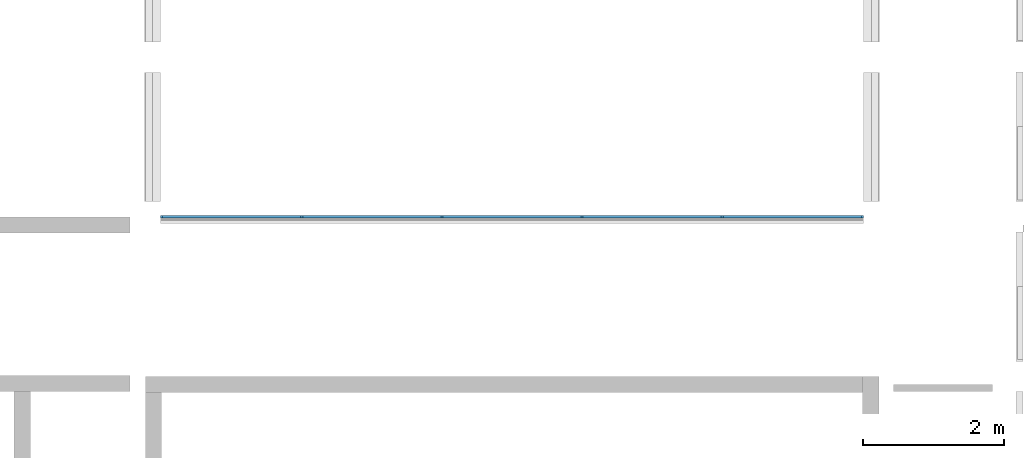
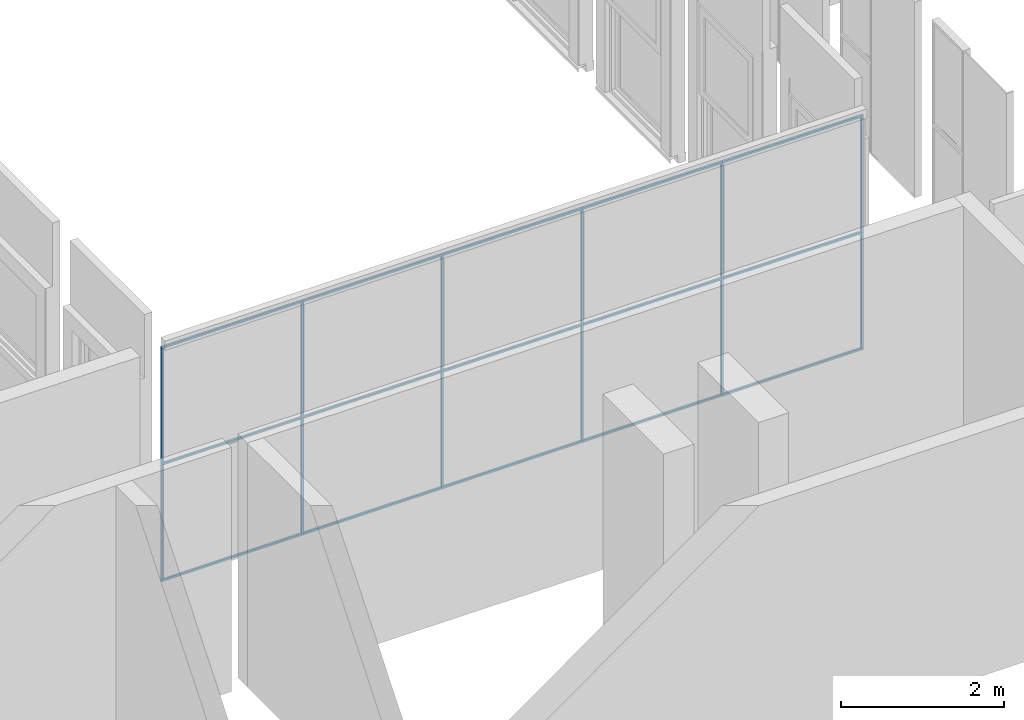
# One storey, part 2 of 13: 27 members, 1 element without a shape of its own.
"""IFC2X3 building model written with IfcOpenShell, lengths in millimetres."""

from ifc_helpers import new_model, entity, si_unit, converted_unit, derived_unit, direction, frame, origin, origin_2d_with_axis, place, context, subcontext, project, spatial, rectangle, extrude, source, transform, mapped, material, type_object, type_shapes, element, aggregate, save


model = new_model("IFC2X3")

# Units and contexts
model_context = context("Model", 3, precision=0.01, world=origin(), true_north=direction((6.12303176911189e-17, 1.0)))
body_context = subcontext(model_context, "Body", "Model", "MODEL_VIEW")
ifc_project = project(units=[si_unit("LENGTHUNIT", "METRE", prefix="MILLI"), si_unit("AREAUNIT", "SQUARE_METRE"), si_unit("VOLUMEUNIT", "CUBIC_METRE"), converted_unit("PLANEANGLEUNIT", "DEGREE", entity("IfcRatioMeasure", 0.0174532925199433), si_unit("PLANEANGLEUNIT", "RADIAN"), dimensions=[0, 0, 0, 0, 0, 0, 0]), si_unit("MASSUNIT", "GRAM", prefix="KILO"), derived_unit("MASSDENSITYUNIT", [(si_unit("MASSUNIT", "GRAM", prefix="KILO"), 1), (si_unit("LENGTHUNIT", "METRE"), -3)]), derived_unit("MOMENTOFINERTIAUNIT", [(si_unit("LENGTHUNIT", "METRE"), 4)]), si_unit("TIMEUNIT", "SECOND"), si_unit("FREQUENCYUNIT", "HERTZ"), si_unit("THERMODYNAMICTEMPERATUREUNIT", "DEGREE_CELSIUS"), derived_unit("THERMALTRANSMITTANCEUNIT", [(si_unit("MASSUNIT", "GRAM", prefix="KILO"), 1), (si_unit("THERMODYNAMICTEMPERATUREUNIT", "KELVIN"), -1), (si_unit("TIMEUNIT", "SECOND"), -3)]), derived_unit("VOLUMETRICFLOWRATEUNIT", [(si_unit("LENGTHUNIT", "METRE"), 3), (si_unit("TIMEUNIT", "SECOND"), -1)]), si_unit("ELECTRICCURRENTUNIT", "AMPERE"), si_unit("ELECTRICVOLTAGEUNIT", "VOLT"), si_unit("POWERUNIT", "WATT"), si_unit("FORCEUNIT", "NEWTON", prefix="KILO"), si_unit("ILLUMINANCEUNIT", "LUX"), si_unit("LUMINOUSFLUXUNIT", "LUMEN"), si_unit("LUMINOUSINTENSITYUNIT", "CANDELA"), derived_unit("USERDEFINED", [(si_unit("MASSUNIT", "GRAM", prefix="KILO"), -1), (si_unit("LENGTHUNIT", "METRE"), -2), (si_unit("TIMEUNIT", "SECOND"), 3), (si_unit("LUMINOUSFLUXUNIT", "LUMEN"), 1)]), derived_unit("LINEARVELOCITYUNIT", [(si_unit("LENGTHUNIT", "METRE"), 1), (si_unit("TIMEUNIT", "SECOND"), -1)]), si_unit("PRESSUREUNIT", "PASCAL"), derived_unit("USERDEFINED", [(si_unit("LENGTHUNIT", "METRE"), -2), (si_unit("MASSUNIT", "GRAM", prefix="KILO"), 1), (si_unit("TIMEUNIT", "SECOND"), -2)]), derived_unit("LINEARFORCEUNIT", [(si_unit("MASSUNIT", "GRAM", prefix="KILO"), 1), (si_unit("LENGTHUNIT", "METRE"), 1), (si_unit("TIMEUNIT", "SECOND"), -2), (si_unit("LENGTHUNIT", "METRE"), -1)]), derived_unit("PLANARFORCEUNIT", [(si_unit("MASSUNIT", "GRAM", prefix="KILO"), 1), (si_unit("LENGTHUNIT", "METRE"), 1), (si_unit("TIMEUNIT", "SECOND"), -2), (si_unit("LENGTHUNIT", "METRE"), -2)])], contexts=[model_context])

# Site, building, storey
site_placement = place(None, frame((10627.5135316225, 21939.0796949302, 0.0)))
site = spatial("IfcSite", under=ifc_project, at=site_placement, Name="Default", CompositionType="ELEMENT")
building_placement = place(site_placement, origin())
building = spatial("IfcBuilding", under=site, at=building_placement, CompositionType="ELEMENT")
storey_placement = place(building_placement, frame((0.0, 0.0, 7320.0)))
storey = spatial("IfcBuildingStorey", under=building, at=storey_placement, Name="R+2", CompositionType="ELEMENT", Elevation=7320.0)

# Curtain wall, members
curtain_wall_type = type_object("IfcCurtainWallType", Name="Curtain Wall:Curtain_Wall-Exterior_Glazing", PredefinedType="NOTDEFINED")
curtain_wall_placement = place(storey_placement, frame((0.0, 0.0, -7320.0)))
curtain_wall = element("IfcCurtainWall", 1, at=curtain_wall_placement, inside=storey, type_object=curtain_wall_type, Name="Curtain Wall:Curtain_Wall-Exterior_Glazing", ObjectType="Curtain Wall:Curtain_Wall-Exterior_Glazing")
ifc_material = material(Name="Aluminium")
member_type_1 = type_object("IfcMemberType", Name="Rectangular Mullion:30mm_Square", PredefinedType="MULLION", material=ifc_material)
shared_shape_1 = source(origin(), body_context, "Body", "SweptSolid", [
    extrude(rectangle(XDim=30.0, YDim=30.0, at=origin_2d_with_axis()), frame((-15.0, 0.0, -1999.0), z_axis=(0.0, 0.0, 1.0), x_axis=(0.0, -1.0, 0.0)), (0.0, 0.0, 1.0), 1999.00000018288),
])
type_shapes(member_type_1, [shared_shape_1])
member_1_placement = place(storey_placement, frame((51357.4864683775, -15159.0796949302, 3520.0), z_axis=(1.0, 0.0, 0.0), x_axis=(0.0, 0.0, 1.0)))
member_1 = element("IfcMember", 2, at=member_1_placement, type_object=member_type_1, material=ifc_material, Name="Rectangular Mullion:30mm_Square", ObjectType="Rectangular Mullion:30mm_Square", context=body_context, shape_type="MappedRepresentation", body=[
    mapped(shared_shape_1, transform((0.0, 0.0, 0.0), scale=1.0)),
])
member_type_2 = type_object("IfcMemberType", Name="Rectangular Mullion:30mm_Square", PredefinedType="MULLION", material=ifc_material)
shared_shape_2 = source(origin(), body_context, "Body", "SweptSolid", [
    extrude(rectangle(XDim=30.0, YDim=30.0, at=origin_2d_with_axis()), frame((-15.0, 0.0, -1999.0), z_axis=(0.0, 0.0, 1.0), x_axis=(0.0, -1.0, 0.0)), (0.0, 0.0, 1.0), 1999.00000018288),
])
type_shapes(member_type_2, [shared_shape_2])
member_2_placement = place(storey_placement, frame((43406.4864685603, -15159.0796949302, 3520.0), z_axis=(1.0, 0.0, 0.0), x_axis=(0.0, 0.0, 1.0)))
member_2 = element("IfcMember", 3, at=member_2_placement, type_object=member_type_2, material=ifc_material, Name="Rectangular Mullion:30mm_Square", ObjectType="Rectangular Mullion:30mm_Square", context=body_context, shape_type="MappedRepresentation", body=[
    mapped(shared_shape_2, transform((0.0, 0.0, 0.0), scale=1.0)),
])
member_type_3 = type_object("IfcMemberType", Name="Rectangular Mullion:30mm_Square", PredefinedType="MULLION", material=ifc_material)
shared_shape_3 = source(origin(), body_context, "Body", "SweptSolid", [
    extrude(rectangle(XDim=30.0, YDim=30.0, at=origin_2d_with_axis()), frame((-15.0, 0.0, -1984.0), z_axis=(0.0, 0.0, 1.0), x_axis=(0.0, -1.0, 0.0)), (0.0, 0.0, 1.0), 1983.99999987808),
])
type_shapes(member_type_3, [shared_shape_3])
member_3_placement = place(storey_placement, frame((45390.4864684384, -15159.0796949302, 3520.0), z_axis=(1.0, 0.0, 0.0), x_axis=(0.0, 0.0, 1.0)))
member_3 = element("IfcMember", 4, at=member_3_placement, type_object=member_type_3, material=ifc_material, Name="Rectangular Mullion:30mm_Square", ObjectType="Rectangular Mullion:30mm_Square", context=body_context, shape_type="MappedRepresentation", body=[
    mapped(shared_shape_3, transform((0.0, 0.0, 0.0), scale=1.0)),
])
member_4_placement = place(storey_placement, frame((47374.4864683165, -15159.0796949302, 3520.0), z_axis=(1.0, 0.0, 0.0), x_axis=(0.0, 0.0, 1.0)))
member_4 = element("IfcMember", 5, at=member_4_placement, type_object=member_type_3, material=ifc_material, Name="Rectangular Mullion:30mm_Square", ObjectType="Rectangular Mullion:30mm_Square", context=body_context, shape_type="MappedRepresentation", body=[
    mapped(shared_shape_3, transform((0.0, 0.0, 0.0), scale=1.0)),
])
member_5_placement = place(storey_placement, frame((49358.4864681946, -15159.0796949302, 3520.0), z_axis=(1.0, 0.0, 0.0), x_axis=(0.0, 0.0, 1.0)))
member_5 = element("IfcMember", 6, at=member_5_placement, type_object=member_type_3, material=ifc_material, Name="Rectangular Mullion:30mm_Square", ObjectType="Rectangular Mullion:30mm_Square", context=body_context, shape_type="MappedRepresentation", body=[
    mapped(shared_shape_3, transform((0.0, 0.0, 0.0), scale=1.0)),
])
member_type_4 = type_object("IfcMemberType", Name="Rectangular Mullion:30mm_Square", PredefinedType="MULLION", material=ifc_material)
shared_shape_4 = source(origin(), body_context, "Body", "SweptSolid", [
    extrude(rectangle(XDim=30.0, YDim=30.0, at=origin_2d_with_axis()), frame((-15.0, 0.0, -1999.0), z_axis=(0.0, 0.0, 1.0), x_axis=(0.0, -1.0, 0.0)), (0.0, 0.0, 1.0), 1999.00000018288),
])
type_shapes(member_type_4, [shared_shape_4])
member_6_placement = place(storey_placement, frame((41407.4864683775, -15159.0796949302, 0.0), z_axis=(-1.0, 0.0, 0.0), x_axis=(0.0, 0.0, -1.0)))
member_6 = element("IfcMember", 7, at=member_6_placement, type_object=member_type_4, material=ifc_material, Name="Rectangular Mullion:30mm_Square", ObjectType="Rectangular Mullion:30mm_Square", context=body_context, shape_type="MappedRepresentation", body=[
    mapped(shared_shape_4, transform((0.0, 0.0, 0.0), scale=1.0)),
])
member_type_5 = type_object("IfcMemberType", Name="Rectangular Mullion:30mm_Square", PredefinedType="MULLION", material=ifc_material)
shared_shape_5 = source(origin(), body_context, "Body", "SweptSolid", [
    extrude(rectangle(XDim=30.0, YDim=30.0, at=origin_2d_with_axis()), frame((-15.0, 0.0, -1984.0), z_axis=(0.0, 0.0, 1.0), x_axis=(0.0, -1.0, 0.0)), (0.0, 0.0, 1.0), 1983.99999987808),
])
type_shapes(member_type_5, [shared_shape_5])
member_7_placement = place(storey_placement, frame((43406.4864685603, -15159.0796949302, 0.0), z_axis=(-1.0, 0.0, 0.0), x_axis=(0.0, 0.0, -1.0)))
member_7 = element("IfcMember", 8, at=member_7_placement, type_object=member_type_5, material=ifc_material, Name="Rectangular Mullion:30mm_Square", ObjectType="Rectangular Mullion:30mm_Square", context=body_context, shape_type="MappedRepresentation", body=[
    mapped(shared_shape_5, transform((0.0, 0.0, 0.0), scale=1.0)),
])
member_8_placement = place(storey_placement, frame((45390.4864684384, -15159.0796949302, 0.0), z_axis=(-1.0, 0.0, 0.0), x_axis=(0.0, 0.0, -1.0)))
member_8 = element("IfcMember", 9, at=member_8_placement, type_object=member_type_5, material=ifc_material, Name="Rectangular Mullion:30mm_Square", ObjectType="Rectangular Mullion:30mm_Square", context=body_context, shape_type="MappedRepresentation", body=[
    mapped(shared_shape_5, transform((0.0, 0.0, 0.0), scale=1.0)),
])
member_9_placement = place(storey_placement, frame((47374.4864683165, -15159.0796949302, 0.0), z_axis=(-1.0, 0.0, 0.0), x_axis=(0.0, 0.0, -1.0)))
member_9 = element("IfcMember", 10, at=member_9_placement, type_object=member_type_5, material=ifc_material, Name="Rectangular Mullion:30mm_Square", ObjectType="Rectangular Mullion:30mm_Square", context=body_context, shape_type="MappedRepresentation", body=[
    mapped(shared_shape_5, transform((0.0, 0.0, 0.0), scale=1.0)),
])
member_type_6 = type_object("IfcMemberType", Name="Rectangular Mullion:30mm_Square", PredefinedType="MULLION", material=ifc_material)
shared_shape_6 = source(origin(), body_context, "Body", "SweptSolid", [
    extrude(rectangle(XDim=30.0, YDim=30.0, at=origin_2d_with_axis()), frame((-15.0, 0.0, -1999.0), z_axis=(0.0, 0.0, 1.0), x_axis=(0.0, -1.0, 0.0)), (0.0, 0.0, 1.0), 1999.00000018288),
])
type_shapes(member_type_6, [shared_shape_6])
member_10_placement = place(storey_placement, frame((49358.4864681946, -15159.0796949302, 0.0), z_axis=(-1.0, 0.0, 0.0), x_axis=(0.0, 0.0, -1.0)))
member_10 = element("IfcMember", 11, at=member_10_placement, type_object=member_type_6, material=ifc_material, Name="Rectangular Mullion:30mm_Square", ObjectType="Rectangular Mullion:30mm_Square", context=body_context, shape_type="MappedRepresentation", body=[
    mapped(shared_shape_6, transform((0.0, 0.0, 0.0), scale=1.0)),
])
member_type_7 = type_object("IfcMemberType", Name="Rectangular Mullion:30mm_Square", PredefinedType="MULLION", material=ifc_material)
shared_shape_7 = source(origin(), body_context, "Body", "SweptSolid", [
    extrude(rectangle(XDim=30.0, YDim=30.0, at=origin_2d_with_axis()), frame((0.0, 0.0, -1954.0), z_axis=(0.0, 0.0, 1.0), x_axis=(0.0, -1.0, 0.0)), (0.0, 0.0, 1.0), 1954.00000018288),
])
type_shapes(member_type_7, [shared_shape_7])
member_11_placement = place(storey_placement, frame((43391.4864685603, -15159.0796949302, 1760.0), z_axis=(1.0, 0.0, 0.0), x_axis=(0.0, 0.0, 1.0)))
member_11 = element("IfcMember", 12, at=member_11_placement, type_object=member_type_7, material=ifc_material, Name="Rectangular Mullion:30mm_Square", ObjectType="Rectangular Mullion:30mm_Square", context=body_context, shape_type="MappedRepresentation", body=[
    mapped(shared_shape_7, transform((0.0, 0.0, 0.0), scale=1.0)),
])
member_12_placement = place(storey_placement, frame((45375.4864684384, -15159.0796949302, 1760.0), z_axis=(1.0, 0.0, 0.0), x_axis=(0.0, 0.0, 1.0)))
member_12 = element("IfcMember", 13, at=member_12_placement, type_object=member_type_7, material=ifc_material, Name="Rectangular Mullion:30mm_Square", ObjectType="Rectangular Mullion:30mm_Square", context=body_context, shape_type="MappedRepresentation", body=[
    mapped(shared_shape_7, transform((0.0, 0.0, 0.0), scale=1.0)),
])
member_13_placement = place(storey_placement, frame((47359.4864683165, -15159.0796949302, 1760.0), z_axis=(1.0, 0.0, 0.0), x_axis=(0.0, 0.0, 1.0)))
member_13 = element("IfcMember", 14, at=member_13_placement, type_object=member_type_7, material=ifc_material, Name="Rectangular Mullion:30mm_Square", ObjectType="Rectangular Mullion:30mm_Square", context=body_context, shape_type="MappedRepresentation", body=[
    mapped(shared_shape_7, transform((0.0, 0.0, 0.0), scale=1.0)),
])
member_14_placement = place(storey_placement, frame((49343.4864681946, -15159.0796949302, 1760.0), z_axis=(1.0, 0.0, 0.0), x_axis=(0.0, 0.0, 1.0)))
member_14 = element("IfcMember", 15, at=member_14_placement, type_object=member_type_7, material=ifc_material, Name="Rectangular Mullion:30mm_Square", ObjectType="Rectangular Mullion:30mm_Square", context=body_context, shape_type="MappedRepresentation", body=[
    mapped(shared_shape_7, transform((0.0, 0.0, 0.0), scale=1.0)),
])
member_15_placement = place(storey_placement, frame((51327.4864683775, -15159.0796949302, 1760.0), z_axis=(1.0, 0.0, 0.0), x_axis=(0.0, 0.0, 1.0)))
member_15 = element("IfcMember", 16, at=member_15_placement, type_object=member_type_7, material=ifc_material, Name="Rectangular Mullion:30mm_Square", ObjectType="Rectangular Mullion:30mm_Square", context=body_context, shape_type="MappedRepresentation", body=[
    mapped(shared_shape_7, transform((0.0, 0.0, 0.0), scale=1.0)),
])
member_type_8 = type_object("IfcMemberType", Name="Rectangular Mullion:30mm_Square", PredefinedType="MULLION", material=ifc_material)
shared_shape_8 = source(origin(), body_context, "Body", "SweptSolid", [
    extrude(rectangle(XDim=30.0, YDim=30.0, at=origin_2d_with_axis()), frame((-15.0, 0.0, -1730.0), z_axis=(0.0, 0.0, 1.0), x_axis=(0.0, -1.0, 0.0)), (0.0, 0.0, 1.0), 1730.0),
])
type_shapes(member_type_8, [shared_shape_8])
member_16_placement = place(storey_placement, frame((51357.4864683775, -15159.0796949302, 30.0), z_axis=(0.0, 0.0, -1.0), x_axis=(1.0, 0.0, 0.0)))
member_16 = element("IfcMember", 17, at=member_16_placement, type_object=member_type_8, material=ifc_material, Name="Rectangular Mullion:30mm_Square", ObjectType="Rectangular Mullion:30mm_Square", context=body_context, shape_type="MappedRepresentation", body=[
    mapped(shared_shape_8, transform((0.0, 0.0, 0.0), scale=1.0)),
])
member_type_9 = type_object("IfcMemberType", Name="Rectangular Mullion:30mm_Square", PredefinedType="MULLION", material=ifc_material)
shared_shape_9 = source(origin(), body_context, "Body", "SweptSolid", [
    extrude(rectangle(XDim=30.0, YDim=30.0, at=origin_2d_with_axis()), frame((-15.0, 0.0, -1730.0), z_axis=(0.0, 0.0, 1.0), x_axis=(0.0, -1.0, 0.0)), (0.0, 0.0, 1.0), 1730.0),
])
type_shapes(member_type_9, [shared_shape_9])
member_17_placement = place(storey_placement, frame((51357.4864683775, -15159.0796949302, 1760.0), z_axis=(0.0, 0.0, -1.0), x_axis=(1.0, 0.0, 0.0)))
member_17 = element("IfcMember", 18, at=member_17_placement, type_object=member_type_9, material=ifc_material, Name="Rectangular Mullion:30mm_Square", ObjectType="Rectangular Mullion:30mm_Square", context=body_context, shape_type="MappedRepresentation", body=[
    mapped(shared_shape_9, transform((0.0, 0.0, 0.0), scale=1.0)),
])
member_type_10 = type_object("IfcMemberType", Name="Rectangular Mullion:30mm_Square", PredefinedType="MULLION", material=ifc_material)
shared_shape_10 = source(origin(), body_context, "Body", "SweptSolid", [
    extrude(rectangle(XDim=30.0, YDim=30.0, at=origin_2d_with_axis()), frame((-15.0, 0.0, -1730.0), z_axis=(0.0, 0.0, 1.0), x_axis=(0.0, -1.0, 0.0)), (0.0, 0.0, 1.0), 1730.0),
])
type_shapes(member_type_10, [shared_shape_10])
member_18_placement = place(storey_placement, frame((41407.4864683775, -15159.0796949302, 3490.0), z_axis=(0.0, 0.0, 1.0), x_axis=(-1.0, 0.0, 0.0)))
member_18 = element("IfcMember", 19, at=member_18_placement, type_object=member_type_10, material=ifc_material, Name="Rectangular Mullion:30mm_Square", ObjectType="Rectangular Mullion:30mm_Square", context=body_context, shape_type="MappedRepresentation", body=[
    mapped(shared_shape_10, transform((0.0, 0.0, 0.0), scale=1.0)),
])
member_type_11 = type_object("IfcMemberType", Name="Rectangular Mullion:30mm_Square", PredefinedType="MULLION", material=ifc_material)
shared_shape_11 = source(origin(), body_context, "Body", "SweptSolid", [
    extrude(rectangle(XDim=30.0, YDim=30.0, at=origin_2d_with_axis()), frame((-15.0, 0.0, -1730.0), z_axis=(0.0, 0.0, 1.0), x_axis=(0.0, -1.0, 0.0)), (0.0, 0.0, 1.0), 1730.0),
])
type_shapes(member_type_11, [shared_shape_11])
member_19_placement = place(storey_placement, frame((41407.4864683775, -15159.0796949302, 1760.0), z_axis=(0.0, 0.0, 1.0), x_axis=(-1.0, 0.0, 0.0)))
member_19 = element("IfcMember", 20, at=member_19_placement, type_object=member_type_11, material=ifc_material, Name="Rectangular Mullion:30mm_Square", ObjectType="Rectangular Mullion:30mm_Square", context=body_context, shape_type="MappedRepresentation", body=[
    mapped(shared_shape_11, transform((0.0, 0.0, 0.0), scale=1.0)),
])
member_type_12 = type_object("IfcMemberType", Name="Rectangular Mullion:30mm_Square", PredefinedType="MULLION", material=ifc_material)
shared_shape_12 = source(origin(), body_context, "Body", "SweptSolid", [
    extrude(rectangle(XDim=30.0, YDim=30.0, at=origin_2d_with_axis()), frame((0.0, 0.0, -1730.0), z_axis=(0.0, 0.0, 1.0), x_axis=(0.0, -1.0, 0.0)), (0.0, 0.0, 1.0), 1730.0),
])
type_shapes(member_type_12, [shared_shape_12])
member_20_placement = place(storey_placement, frame((43406.4864685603, -15159.0796949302, 30.0), z_axis=(0.0, 0.0, -1.0), x_axis=(1.0, 0.0, 0.0)))
member_20 = element("IfcMember", 21, at=member_20_placement, type_object=member_type_12, material=ifc_material, Name="Rectangular Mullion:30mm_Square", ObjectType="Rectangular Mullion:30mm_Square", context=body_context, shape_type="MappedRepresentation", body=[
    mapped(shared_shape_12, transform((0.0, 0.0, 0.0), scale=1.0)),
])
member_21_placement = place(storey_placement, frame((45390.4864684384, -15159.0796949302, 30.0), z_axis=(0.0, 0.0, -1.0), x_axis=(1.0, 0.0, 0.0)))
member_21 = element("IfcMember", 22, at=member_21_placement, type_object=member_type_12, material=ifc_material, Name="Rectangular Mullion:30mm_Square", ObjectType="Rectangular Mullion:30mm_Square", context=body_context, shape_type="MappedRepresentation", body=[
    mapped(shared_shape_12, transform((0.0, 0.0, 0.0), scale=1.0)),
])
member_22_placement = place(storey_placement, frame((47374.4864683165, -15159.0796949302, 30.0), z_axis=(0.0, 0.0, -1.0), x_axis=(1.0, 0.0, 0.0)))
member_22 = element("IfcMember", 23, at=member_22_placement, type_object=member_type_12, material=ifc_material, Name="Rectangular Mullion:30mm_Square", ObjectType="Rectangular Mullion:30mm_Square", context=body_context, shape_type="MappedRepresentation", body=[
    mapped(shared_shape_12, transform((0.0, 0.0, 0.0), scale=1.0)),
])
member_23_placement = place(storey_placement, frame((49358.4864681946, -15159.0796949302, 30.0), z_axis=(0.0, 0.0, -1.0), x_axis=(1.0, 0.0, 0.0)))
member_23 = element("IfcMember", 24, at=member_23_placement, type_object=member_type_12, material=ifc_material, Name="Rectangular Mullion:30mm_Square", ObjectType="Rectangular Mullion:30mm_Square", context=body_context, shape_type="MappedRepresentation", body=[
    mapped(shared_shape_12, transform((0.0, 0.0, 0.0), scale=1.0)),
])
member_type_13 = type_object("IfcMemberType", Name="Rectangular Mullion:30mm_Square", PredefinedType="MULLION", material=ifc_material)
shared_shape_13 = source(origin(), body_context, "Body", "SweptSolid", [
    extrude(rectangle(XDim=30.0, YDim=30.0, at=origin_2d_with_axis()), frame((0.0, 0.0, -1730.0), z_axis=(0.0, 0.0, 1.0), x_axis=(0.0, -1.0, 0.0)), (0.0, 0.0, 1.0), 1730.0),
])
type_shapes(member_type_13, [shared_shape_13])
member_24_placement = place(storey_placement, frame((43406.4864685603, -15159.0796949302, 1760.0), z_axis=(0.0, 0.0, -1.0), x_axis=(1.0, 0.0, 0.0)))
member_24 = element("IfcMember", 25, at=member_24_placement, type_object=member_type_13, material=ifc_material, Name="Rectangular Mullion:30mm_Square", ObjectType="Rectangular Mullion:30mm_Square", context=body_context, shape_type="MappedRepresentation", body=[
    mapped(shared_shape_13, transform((0.0, 0.0, 0.0), scale=1.0)),
])
member_25_placement = place(storey_placement, frame((45390.4864684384, -15159.0796949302, 1760.0), z_axis=(0.0, 0.0, -1.0), x_axis=(1.0, 0.0, 0.0)))
member_25 = element("IfcMember", 26, at=member_25_placement, type_object=member_type_13, material=ifc_material, Name="Rectangular Mullion:30mm_Square", ObjectType="Rectangular Mullion:30mm_Square", context=body_context, shape_type="MappedRepresentation", body=[
    mapped(shared_shape_13, transform((0.0, 0.0, 0.0), scale=1.0)),
])
member_26_placement = place(storey_placement, frame((47374.4864683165, -15159.0796949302, 1760.0), z_axis=(0.0, 0.0, -1.0), x_axis=(1.0, 0.0, 0.0)))
member_26 = element("IfcMember", 27, at=member_26_placement, type_object=member_type_13, material=ifc_material, Name="Rectangular Mullion:30mm_Square", ObjectType="Rectangular Mullion:30mm_Square", context=body_context, shape_type="MappedRepresentation", body=[
    mapped(shared_shape_13, transform((0.0, 0.0, 0.0), scale=1.0)),
])
member_27_placement = place(storey_placement, frame((49358.4864681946, -15159.0796949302, 1760.0), z_axis=(0.0, 0.0, -1.0), x_axis=(1.0, 0.0, 0.0)))
member_27 = element("IfcMember", 28, at=member_27_placement, type_object=member_type_13, material=ifc_material, Name="Rectangular Mullion:30mm_Square", ObjectType="Rectangular Mullion:30mm_Square", context=body_context, shape_type="MappedRepresentation", body=[
    mapped(shared_shape_13, transform((0.0, 0.0, 0.0), scale=1.0)),
])
aggregate(curtain_wall, [member_1, member_2, member_3, member_4, member_5, member_6, member_7, member_8, member_9, member_10, member_11, member_12, member_13, member_14, member_15, member_16, member_17, member_18, member_19, member_20, member_24, member_21, member_22, member_23, member_25, member_26, member_27])

save(model, "model.ifc")
